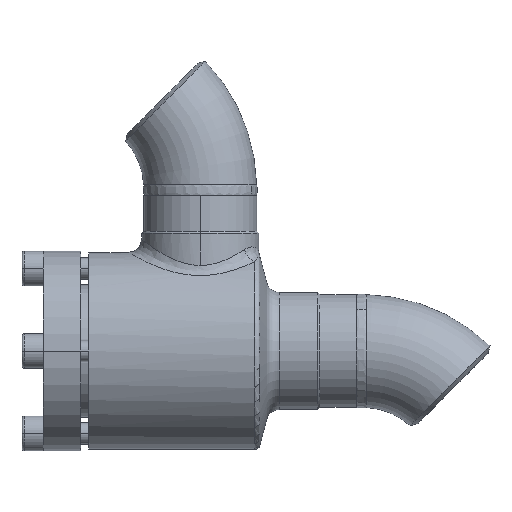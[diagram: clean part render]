
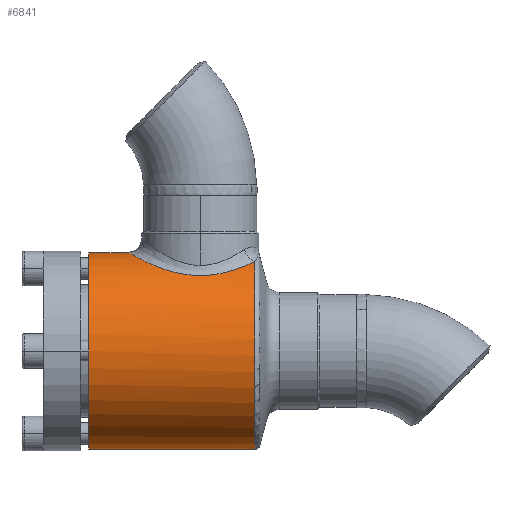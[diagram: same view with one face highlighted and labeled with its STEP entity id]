
A CAD part, left-side view. The second image highlights one B-rep face of the part: STEP entity #6841.
In plain terms, the highlighted cylindrical face has radius 37 mm (diameter 74 mm), a partial arc.
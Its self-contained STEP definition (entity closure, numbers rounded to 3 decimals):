
#822 = ORIENTED_EDGE ( 'NONE', *, *, #4948, .T. ) ;
#1452 = EDGE_CURVE ( 'NONE', #3033, #4553, #10170, .T. ) ;
#1712 = CIRCLE ( 'NONE', #1713, 37. ) ;
#1713 = AXIS2_PLACEMENT_3D ( 'NONE', #1714, #1715, #1716 ) ;
#1714 = CARTESIAN_POINT ( 'NONE',  ( 0., 0., 0. ) ) ;
#1715 = DIRECTION ( 'NONE',  ( 0., 1., 0. ) ) ;
#1716 = DIRECTION ( 'NONE',  ( 0., 0., 1. ) ) ;
#2110 = ORIENTED_EDGE ( 'NONE', *, *, #1452, .T. ) ;
#3033 = VERTEX_POINT ( 'NONE', #26878 ) ;
#4091 = EDGE_CURVE ( 'NONE', #14766, #3033, #11179, .T. ) ;
#4553 = VERTEX_POINT ( 'NONE', #12330 ) ;
#4751 = ORIENTED_EDGE ( 'NONE', *, *, #4091, .T. ) ;
#4948 = EDGE_CURVE ( 'NONE', #4553, #6542, #12568, .T. ) ;
#5682 = ORIENTED_EDGE ( 'NONE', *, *, #28761, .F. ) ;
#22619 = CARTESIAN_POINT ( 'NONE',  ( 0., -62.446, -37. ) ) ;
#6411 = EDGE_LOOP ( 'NONE', ( #5682, #4751, #2110, #822, #28139 ) ) ;
#22791 = CARTESIAN_POINT ( 'NONE',  ( 0., 0., 37. ) ) ;
#6542 = VERTEX_POINT ( 'NONE', #22791 ) ;
#23044 = FACE_OUTER_BOUND ( 'NONE', #6411, .T. ) ;
#23045 = CYLINDRICAL_SURFACE ( 'NONE', #23046, 37. ) ;
#23046 = AXIS2_PLACEMENT_3D ( 'NONE', #23047, #23048, #23049 ) ;
#23047 = CARTESIAN_POINT ( 'NONE',  ( 0., -68., 0. ) ) ;
#23048 = DIRECTION ( 'NONE',  ( 0., 1., 0. ) ) ;
#23049 = DIRECTION ( 'NONE',  ( 0., 0., 1. ) ) ;
#6841 = ADVANCED_FACE ( 'NONE', ( #23044 ), #23045, .T. ) ;
#10170 = B_SPLINE_CURVE_WITH_KNOTS ( 'NONE', 3,
 ( #10171, #10172, #10173, #10174, #10175, #10176, #10177, #10194, #10195, #10196, #10197, #10198, #10199, #10200, #10201, #10202, #10203, #10204, #10205, #10206, #10207, #10208, #10209, #10229, #10230, #10231, #10232, #10233, #10234, #10235, #10236, #10237, #10238, #10239, #10240, #10241, #10242, #10243, #10244, #10262, #10263, #10264, #10265, #10266, #10267, #10268, #10269, #10270 ),
 .UNSPECIFIED., .F., .F.,
 ( 4, 2, 2, 2, 2, 2, 2, 2, 2, 2, 2, 2, 2, 2, 2, 2, 2, 2, 2, 2, 2, 2, 2, 4 ),
 ( 0., 0.004, 0.008, 0.01, 0.012, 0.016, 0.018, 0.02, 0.024, 0.026, 0.028, 0.03, 0.032, 0.036, 0.04, 0.042, 0.044, 0.048, 0.05, 0.052, 0.056, 0.058, 0.06, 0.064 ),
 .UNSPECIFIED. ) ;
#10171 = CARTESIAN_POINT ( 'NONE',  ( -15.535, -62.446, 33.581 ) ) ;
#10172 = CARTESIAN_POINT ( 'NONE',  ( -16.452, -61.548, 33.157 ) ) ;
#10173 = CARTESIAN_POINT ( 'NONE',  ( -17.286, -60.594, 32.725 ) ) ;
#10174 = CARTESIAN_POINT ( 'NONE',  ( -18.811, -58.577, 31.873 ) ) ;
#10175 = CARTESIAN_POINT ( 'NONE',  ( -19.502, -57.514, 31.452 ) ) ;
#10176 = CARTESIAN_POINT ( 'NONE',  ( -20.434, -55.835, 30.848 ) ) ;
#10177 = CARTESIAN_POINT ( 'NONE',  ( -20.728, -55.259, 30.65 ) ) ;
#10194 = CARTESIAN_POINT ( 'NONE',  ( -21.277, -54.088, 30.272 ) ) ;
#10195 = CARTESIAN_POINT ( 'NONE',  ( -21.531, -53.494, 30.092 ) ) ;
#10196 = CARTESIAN_POINT ( 'NONE',  ( -22.233, -51.685, 29.581 ) ) ;
#10197 = CARTESIAN_POINT ( 'NONE',  ( -22.624, -50.442, 29.28 ) ) ;
#10198 = CARTESIAN_POINT ( 'NONE',  ( -23.09, -48.518, 28.912 ) ) ;
#10199 = CARTESIAN_POINT ( 'NONE',  ( -23.225, -47.864, 28.803 ) ) ;
#10200 = CARTESIAN_POINT ( 'NONE',  ( -23.453, -46.548, 28.618 ) ) ;
#10201 = CARTESIAN_POINT ( 'NONE',  ( -23.545, -45.887, 28.542 ) ) ;
#10202 = CARTESIAN_POINT ( 'NONE',  ( -23.756, -43.897, 28.367 ) ) ;
#10203 = CARTESIAN_POINT ( 'NONE',  ( -23.81, -42.56, 28.321 ) ) ;
#10204 = CARTESIAN_POINT ( 'NONE',  ( -23.758, -40.538, 28.365 ) ) ;
#10205 = CARTESIAN_POINT ( 'NONE',  ( -23.718, -39.862, 28.398 ) ) ;
#10206 = CARTESIAN_POINT ( 'NONE',  ( -23.596, -38.528, 28.5 ) ) ;
#10207 = CARTESIAN_POINT ( 'NONE',  ( -23.513, -37.867, 28.569 ) ) ;
#10208 = CARTESIAN_POINT ( 'NONE',  ( -23.304, -36.555, 28.739 ) ) ;
#10209 = CARTESIAN_POINT ( 'NONE',  ( -23.179, -35.905, 28.84 ) ) ;
#10229 = CARTESIAN_POINT ( 'NONE',  ( -22.886, -34.615, 29.073 ) ) ;
#10230 = CARTESIAN_POINT ( 'NONE',  ( -22.718, -33.974, 29.205 ) ) ;
#10231 = CARTESIAN_POINT ( 'NONE',  ( -22.153, -32.08, 29.639 ) ) ;
#10232 = CARTESIAN_POINT ( 'NONE',  ( -21.7, -30.866, 29.975 ) ) ;
#10233 = CARTESIAN_POINT ( 'NONE',  ( -20.645, -28.526, 30.712 ) ) ;
#10234 = CARTESIAN_POINT ( 'NONE',  ( -20.043, -27.4, 31.112 ) ) ;
#10235 = CARTESIAN_POINT ( 'NONE',  ( -19.02, -25.773, 31.74 ) ) ;
#10236 = CARTESIAN_POINT ( 'NONE',  ( -18.66, -25.243, 31.953 ) ) ;
#10237 = CARTESIAN_POINT ( 'NONE',  ( -17.908, -24.217, 32.381 ) ) ;
#10238 = CARTESIAN_POINT ( 'NONE',  ( -17.515, -23.72, 32.595 ) ) ;
#10239 = CARTESIAN_POINT ( 'NONE',  ( -16.284, -22.274, 33.237 ) ) ;
#10240 = CARTESIAN_POINT ( 'NONE',  ( -15.395, -21.372, 33.662 ) ) ;
#10241 = CARTESIAN_POINT ( 'NONE',  ( -13.943, -20.115, 34.276 ) ) ;
#10242 = CARTESIAN_POINT ( 'NONE',  ( -13.437, -19.71, 34.478 ) ) ;
#10243 = CARTESIAN_POINT ( 'NONE',  ( -12.398, -18.947, 34.865 ) ) ;
#10244 = CARTESIAN_POINT ( 'NONE',  ( -11.864, -18.588, 35.051 ) ) ;
#10262 = CARTESIAN_POINT ( 'NONE',  ( -10.215, -17.575, 35.581 ) ) ;
#10263 = CARTESIAN_POINT ( 'NONE',  ( -9.054, -16.989, 35.897 ) ) ;
#10264 = CARTESIAN_POINT ( 'NONE',  ( -7.207, -16.258, 36.297 ) ) ;
#10265 = CARTESIAN_POINT ( 'NONE',  ( -6.575, -16.041, 36.417 ) ) ;
#10266 = CARTESIAN_POINT ( 'NONE',  ( -5.29, -15.666, 36.626 ) ) ;
#10267 = CARTESIAN_POINT ( 'NONE',  ( -4.64, -15.508, 36.714 ) ) ;
#10268 = CARTESIAN_POINT ( 'NONE',  ( -2.677, -15.129, 36.926 ) ) ;
#10269 = CARTESIAN_POINT ( 'NONE',  ( -1.349, -15., 37. ) ) ;
#10270 = CARTESIAN_POINT ( 'NONE',  ( 0., -15., 37. ) ) ;
#26878 = CARTESIAN_POINT ( 'NONE',  ( -15.535, -62.446, 33.581 ) ) ;
#27480 = EDGE_CURVE ( 'NONE', #28367, #6542, #1712, .T. ) ;
#11179 = CIRCLE ( 'NONE', #11180, 37. ) ;
#11180 = AXIS2_PLACEMENT_3D ( 'NONE', #11181, #11182, #11183 ) ;
#11181 = CARTESIAN_POINT ( 'NONE',  ( 0., -62.446, 0. ) ) ;
#11182 = DIRECTION ( 'NONE',  ( 0., 1., 0. ) ) ;
#11183 = DIRECTION ( 'NONE',  ( 0., 0., -1. ) ) ;
#28139 = ORIENTED_EDGE ( 'NONE', *, *, #27480, .F. ) ;
#28367 = VERTEX_POINT ( 'NONE', #12495 ) ;
#12330 = CARTESIAN_POINT ( 'NONE',  ( 0., -15., 37. ) ) ;
#28761 = EDGE_CURVE ( 'NONE', #14766, #28367, #12708, .T. ) ;
#12495 = CARTESIAN_POINT ( 'NONE',  ( 0., 0., -37. ) ) ;
#12568 = LINE ( 'NONE', #12569, #12570 ) ;
#12569 = CARTESIAN_POINT ( 'NONE',  ( 0., -68., 37. ) ) ;
#12570 = VECTOR ( 'NONE', #12571, 1000. ) ;
#12571 = DIRECTION ( 'NONE',  ( 0., 1., 0. ) ) ;
#12708 = LINE ( 'NONE', #12709, #12710 ) ;
#12709 = CARTESIAN_POINT ( 'NONE',  ( 0., -68., -37. ) ) ;
#12710 = VECTOR ( 'NONE', #12711, 1000. ) ;
#12711 = DIRECTION ( 'NONE',  ( 0., 1., 0. ) ) ;
#14766 = VERTEX_POINT ( 'NONE', #22619 ) ;
